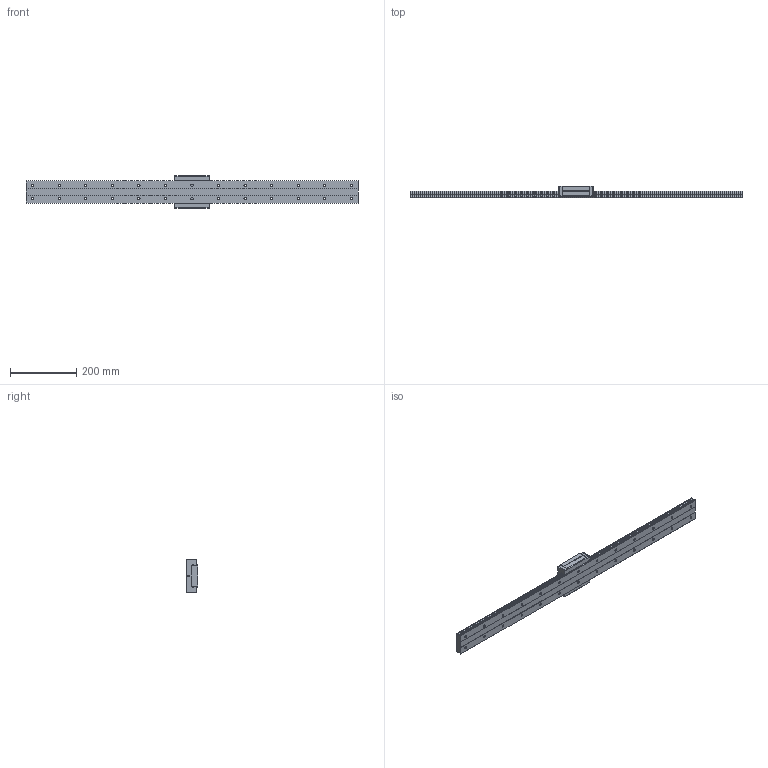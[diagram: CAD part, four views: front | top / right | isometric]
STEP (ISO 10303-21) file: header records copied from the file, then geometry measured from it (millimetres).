
FILE_DESCRIPTION( ( '' ), '1' );
FILE_NAME( 'C:/Users/v3-771-32344/Documents/Website 2016/STEP/SHW35CR1UU1000200446.5000.stp', '2016-11-10T12:46:40', ( '' ), ( '' ), ' ', ' ', ' ' );
FILE_SCHEMA( ( 'CONFIG_CONTROL_DESIGN' ) );
Length unit declared in the file: millimetre
Products named in the file (2): 1; 2
Bounding box: 1000 x 35 x 100 mm (x, y, z)
Volume: 1424597.5 mm3; surface area: 229837.2 mm2
Topology: 2 solids, 2 shells, 304 faces, 770 edges, 488 vertices
Faces by surface type: cylinder 156, plane 116, cone 32
Entity records: 9286 total; most frequent: DIRECTION 1694, CARTESIAN_POINT 1548, ORIENTED_EDGE 1508, EDGE_CURVE 754, AXIS2_PLACEMENT_3D 634, VERTEX_POINT 488, LINE 426, VECTOR 426
